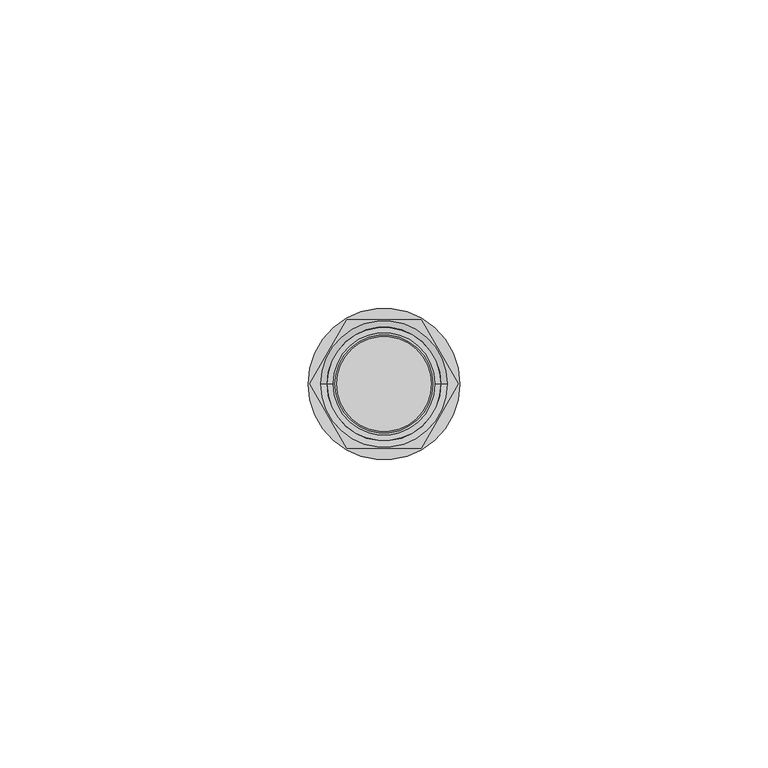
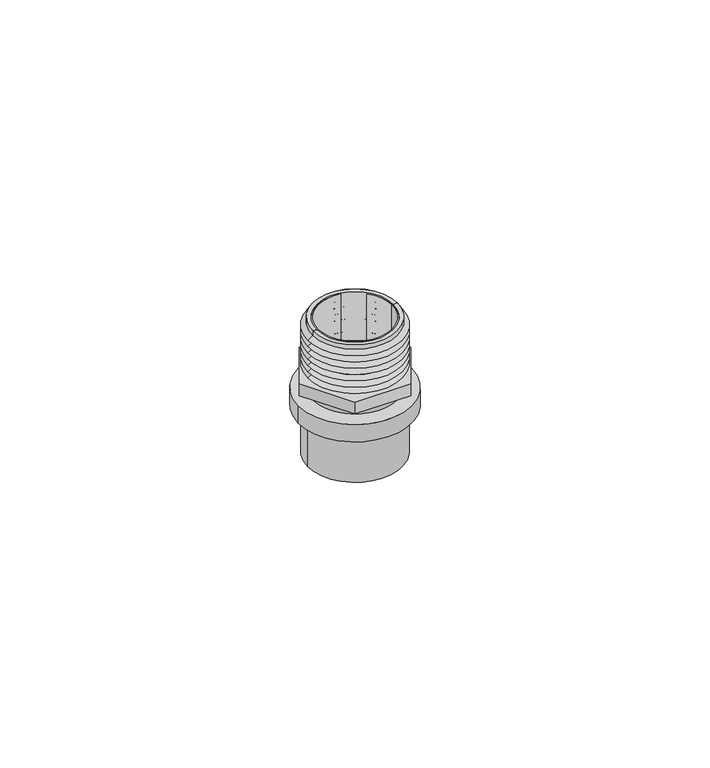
"""IFC4 building model written with IfcOpenShell, lengths in millimetres: valve geometry, Adaptador Macho con Ins Metalico_Lubrizol_CPVC_FlowGuard_MX 13mm : Adaptador Macho con Ins Metalico_Lubrizol_CPVC_FlowGuard_MX 13mm."""

import ifcopenshell
import ifcopenshell.guid

model = None  # the IFC model being written
_history = None  # IfcOwnerHistory: only IFC2X3 demands one
_inside = {}  # id of a spatial element -> (the spatial element, [elements in it])
_under = {}  # id of a project, library or spatial element -> (it, [spatial elements below it])
_declared = {}  # id of a project -> (the project, [libraries it declares])
_typed = {}  # id of a type object -> (the type object, [elements of that type])
_made_of = {}  # id of a material, layer set ... -> (it, [elements and type objects made of it])


def new_model(schema):
    """Start an empty IFC model of exactly this schema.

    Asked for "IFC4X3", IfcOpenShell would pick the latest addendum, in which some entities
    have other attributes; the version numbers below select the first issue.
    IFC2X3 requires an IfcOwnerHistory on every rooted entity: one is made here for all.
    """
    global model, _history
    if schema == "IFC4X3":
        model = ifcopenshell.file(schema_version=(4, 3, 0, 0))
    else:
        model = ifcopenshell.file(schema=schema)
    _inside.clear()
    _under.clear()
    _declared.clear()
    _typed.clear()
    _made_of.clear()
    _history = None
    if model.schema == "IFC2X3":
        org = make("IfcOrganization", Name="unknown")
        user = make(
            "IfcPersonAndOrganization",
            ThePerson=make("IfcPerson", FamilyName="unknown"),
            TheOrganization=org,
        )
        app = make(
            "IfcApplication",
            ApplicationDeveloper=org,
            Version="unknown",
            ApplicationFullName="unknown",
            ApplicationIdentifier="unknown",
        )
        _history = make(
            "IfcOwnerHistory",
            OwningUser=user,
            OwningApplication=app,
            ChangeAction="ADDED",
            CreationDate=0,
        )
    return model


def make(cls, **values):
    """One entity of the class cls with the attributes given. An attribute that is None is left unset."""
    return model.create_entity(
        cls, **{name: value for name, value in values.items() if value is not None}
    )


def rooted(cls, **values):
    """An entity with a GlobalId (a new one), such as an element, a storey or a relation."""
    return make(cls, GlobalId=ifcopenshell.guid.new(), OwnerHistory=_history, **values)


def si_unit(unit_type, name, prefix=None):
    """IfcSIUnit, for example si_unit("LENGTHUNIT", "METRE", prefix="MILLI")."""
    return make("IfcSIUnit", UnitType=unit_type, Prefix=prefix, Name=name)


def assignment(units):
    """IfcUnitAssignment: the units of a project."""
    return None if units is None else make("IfcUnitAssignment", Units=units)


def point(xyz):
    """IfcCartesianPoint."""
    return None if xyz is None else make("IfcCartesianPoint", Coordinates=xyz)


def direction(xyz):
    """IfcDirection."""
    return None if xyz is None else make("IfcDirection", DirectionRatios=xyz)


def frame(location, z_axis=None, x_axis=None):
    """IfcAxis2Placement3D, a coordinate frame: its origin and axes. An axis left out is left unset."""
    return make(
        "IfcAxis2Placement3D",
        Location=point(location),
        Axis=direction(z_axis),
        RefDirection=direction(x_axis),
    )


def frame_2d(location, x_axis=None):
    """IfcAxis2Placement2D, a coordinate frame in the plane: its origin and x axis."""
    return make(
        "IfcAxis2Placement2D", Location=point(location), RefDirection=direction(x_axis)
    )


def origin():
    """The frame at (0, 0, 0) with its axes left unset."""
    return frame((0.0, 0.0, 0.0))


def origin_with_axes():
    """The frame at (0, 0, 0) with the z axis (0, 0, 1) and the x axis (1, 0, 0) written out."""
    return frame((0.0, 0.0, 0.0), z_axis=(0.0, 0.0, 1.0), x_axis=(1.0, 0.0, 0.0))


def origin_2d():
    """The frame at (0, 0) in the plane with its x axis left unset."""
    return frame_2d((0.0, 0.0))


def place(relative_to, where):
    """IfcLocalPlacement: puts the frame where relative to a parent placement (None: the world)."""
    return make(
        "IfcLocalPlacement", PlacementRelTo=relative_to, RelativePlacement=where
    )


def context(
    kind, dimensions, precision=None, world=None, true_north=None, identifier=None
):
    """IfcGeometricRepresentationContext, for example the 3D "Model" context."""
    return make(
        "IfcGeometricRepresentationContext",
        ContextIdentifier=identifier,
        ContextType=kind,
        CoordinateSpaceDimension=dimensions,
        Precision=precision,
        WorldCoordinateSystem=world,
        TrueNorth=true_north,
    )


def project(units=None, contexts=None):
    """IfcProject with its units and contexts."""
    return rooted(
        "IfcProject",
        Name="project",
        RepresentationContexts=contexts,
        UnitsInContext=assignment(units),
    )


def spatial(cls, under=None, at=None, **own):
    """A site, building, storey or space (cls), placed at a placement, below another one or the project."""
    s = rooted(cls, ObjectPlacement=at, **own)
    if under is not None:
        _under.setdefault(under.id(), (under, []))[1].append(s)
    return s


def polyline(points):
    """IfcPolyline through the points."""
    return make("IfcPolyline", Points=[point(p) for p in points])


def circle_curve(where, radius):
    """IfcCircle in the frame where."""
    return make("IfcCircle", Position=where, Radius=radius)


def trimmed(basis, trim1, trim2, sense, master):
    """IfcTrimmedCurve: the piece of a basis curve between two trims."""
    return make(
        "IfcTrimmedCurve",
        BasisCurve=basis,
        Trim1=trim1,
        Trim2=trim2,
        SenseAgreement=sense,
        MasterRepresentation=master,
    )


def segment(curve, same_sense, transition):
    """IfcCompositeCurveSegment."""
    return make(
        "IfcCompositeCurveSegment",
        Transition=transition,
        SameSense=same_sense,
        ParentCurve=curve,
    )


def composite_curve(segments, self_intersect=None):
    """IfcCompositeCurve: segments joined end to end."""
    return make("IfcCompositeCurve", Segments=segments, SelfIntersect=self_intersect)


def outline(outer, holes=None, kind="AREA"):
    """IfcArbitraryClosedProfileDef: a profile drawn as a closed curve; with holes, ...WithVoids."""
    if holes is None:
        return make("IfcArbitraryClosedProfileDef", ProfileType=kind, OuterCurve=outer)
    return make(
        "IfcArbitraryProfileDefWithVoids",
        ProfileType=kind,
        OuterCurve=outer,
        InnerCurves=holes,
    )


def extrude(swept, where, along, depth):
    """IfcExtrudedAreaSolid: the profile swept, set in the frame where, extruded along a direction by depth."""
    return make(
        "IfcExtrudedAreaSolid",
        SweptArea=swept,
        Position=where,
        ExtrudedDirection=direction(along),
        Depth=depth,
    )


def shape(context_of_items, identifier, shape_type, items):
    """IfcShapeRepresentation: the items that make up one representation, for example the "Body"."""
    return make(
        "IfcShapeRepresentation",
        ContextOfItems=context_of_items,
        RepresentationIdentifier=identifier,
        RepresentationType=shape_type,
        Items=items,
    )


def source(mapping_origin, context_of_items, identifier, shape_type, items):
    """IfcRepresentationMap: a shape defined once, which mapped items show again and again."""
    return make(
        "IfcRepresentationMap",
        MappingOrigin=mapping_origin,
        MappedRepresentation=shape(context_of_items, identifier, shape_type, items),
    )


def transform(
    local_origin,
    x_axis=None,
    y_axis=None,
    z_axis=None,
    scale=None,
    scale2=None,
    scale3=None,
    uniform=True,
):
    """IfcCartesianTransformationOperator3D, or its non-uniform kind. x_axis, y_axis, z_axis: its Axis1, 2, 3."""
    if uniform:
        return make(
            "IfcCartesianTransformationOperator3D",
            Axis1=direction(x_axis),
            Axis2=direction(y_axis),
            LocalOrigin=point(local_origin),
            Scale=scale,
            Axis3=direction(z_axis),
        )
    return make(
        "IfcCartesianTransformationOperator3DnonUniform",
        Axis1=direction(x_axis),
        Axis2=direction(y_axis),
        LocalOrigin=point(local_origin),
        Scale=scale,
        Axis3=direction(z_axis),
        Scale2=scale2,
        Scale3=scale3,
    )


def mapped(mapping_source, mapping_target):
    """IfcMappedItem: shows the shape of a source again, moved by a transform."""
    return make(
        "IfcMappedItem", MappingSource=mapping_source, MappingTarget=mapping_target
    )


def made_of(thing, what):
    """Note that an element or type object is made of a material, layer set ...; save() writes the relation."""
    if what is not None:
        _made_of.setdefault(what.id(), (what, []))[1].append(thing)
    return thing


def element(
    cls,
    number,
    at=None,
    inside=None,
    cuts=None,
    type_object=None,
    material=None,
    context=None,
    identifier="Body",
    shape_type=None,
    held_by="IfcProductDefinitionShape",
    body=None,
    shapes=None,
    **own,
):
    """One element of the class cls, such as IfcWall. Its Tag is "e" and its number.

    at: its placement. inside: the storey or other place that contains it. cuts: it is an
    opening in that element (IfcRelVoidsElement). A single representation is given by context,
    identifier, shape_type and body (its items); several are given by shapes. held_by: the class
    of the entity that holds the representations. save() writes the other relations.
    """
    e = rooted(cls, Tag="e%d" % number, ObjectPlacement=at, **own)
    if body is not None:
        shapes = [shape(context, identifier, shape_type, body)]
    if shapes is not None:
        e.Representation = make(held_by, Representations=shapes)
    if inside is not None:
        _inside.setdefault(inside.id(), (inside, []))[1].append(e)
    if cuts is not None:
        rooted(
            "IfcRelVoidsElement", RelatingBuildingElement=cuts, RelatedOpeningElement=e
        )
    if type_object is not None:
        _typed.setdefault(type_object.id(), (type_object, []))[1].append(e)
    return made_of(e, material)


def aggregate(whole, parts):
    """IfcRelAggregates: a whole, such as a stair, and the parts it consists of."""
    return rooted("IfcRelAggregates", RelatingObject=whole, RelatedObjects=parts)


def save(model, path):
    """Write the relations noted so far, then the file.

    IfcRelAggregates (storeys below a building ...), IfcRelContainedInSpatialStructure (elements
    in a storey), IfcRelDefinesByType, IfcRelAssociatesMaterial and IfcRelDeclares: one each for
    every whole, place, type object, material and project.
    """
    for whole, parts in _under.values():
        aggregate(whole, parts)
    for where, things in _inside.values():
        rooted(
            "IfcRelContainedInSpatialStructure",
            RelatedElements=things,
            RelatingStructure=where,
        )
    for kind, things in _typed.values():
        rooted("IfcRelDefinesByType", RelatedObjects=things, RelatingType=kind)
    for what, things in _made_of.values():
        rooted("IfcRelAssociatesMaterial", RelatedObjects=things, RelatingMaterial=what)
    for by, libraries in _declared.values():
        rooted("IfcRelDeclares", RelatingContext=by, RelatedDefinitions=libraries)
    model.write(path)


def plane_surface(at):
    """IfcPlane: the flat surface through the origin of the frame at, square to its z axis."""
    return make("IfcPlane", Position=at)


def cylinder_surface(at, radius):
    """IfcCylindricalSurface: all points at the distance radius from the z axis of the frame at."""
    return make("IfcCylindricalSurface", Position=at, Radius=radius)


def revolved_surface(curve, axis_point, axis_direction):
    """IfcSurfaceOfRevolution: the curve turned about the line through axis_point along axis_direction."""
    return make(
        "IfcSurfaceOfRevolution",
        SweptCurve=make("IfcArbitraryOpenProfileDef", ProfileType="CURVE", Curve=curve),
        AxisPosition=make("IfcAxis1Placement", Location=point(axis_point), Axis=direction(axis_direction)),
    )


def advanced_brep(points, edges, surfaces, faces):
    """IfcAdvancedBrep: a solid bounded by faces that lie on surfaces and meet in shared edges.

    An edge is (start, end): straight between two places in points (the first is 0);
    or (start, end, curve); or (start, end, curve, False) where it runs against its curve.
    A face is (place in surfaces, loops), or (place, loops, False) where it looks against
    its surface's normal. A loop lists edges by number (the first is 1), with a minus sign
    where the edge is run from its end to its start. The first loop is the outer one.
    """
    corners = [point(p) for p in points]
    vertices = [make("IfcVertexPoint", VertexGeometry=c) for c in corners]
    made = []
    for start, end, *more in edges:
        made.append(
            make(
                "IfcEdgeCurve",
                EdgeStart=vertices[start],
                EdgeEnd=vertices[end],
                EdgeGeometry=more[0] if more else make("IfcPolyline", Points=[corners[start], corners[end]]),
                SameSense=more[1] if len(more) > 1 else True,
            )
        )
    hull = []
    for where, loops, *sense in faces:
        bounds = []
        for j, loop in enumerate(loops):
            ring = [make("IfcOrientedEdge", EdgeElement=made[abs(k) - 1], Orientation=k > 0) for k in loop]
            bounds.append(
                make(
                    "IfcFaceOuterBound" if j == 0 else "IfcFaceBound",
                    Bound=make("IfcEdgeLoop", EdgeList=ring),
                    Orientation=True,
                )
            )
        hull.append(make("IfcAdvancedFace", Bounds=bounds, FaceSurface=surfaces[where], SameSense=sense[0] if sense else True))
    return make("IfcAdvancedBrep", Outer=make("IfcClosedShell", CfsFaces=hull))


def valve_5111bdb8(model_context):
    return source(origin(), model_context, "Body", "SolidModel", [
        extrude(outline(composite_curve([segment(trimmed(circle_curve(origin_2d(), 12.2838575), [point((-12.2838575, 0.0))], [point((12.2838575, 0.0))], False, "CARTESIAN"), True, "CONTINUOUS"), segment(trimmed(circle_curve(origin_2d(), 12.2838575), [point((12.2838575, 0.0))], [point((-12.2838575, 0.0))], False, "CARTESIAN"), True, "CONTINUOUS")], self_intersect=False)), frame((0.0, 0.0, 10.708625), z_axis=(0.0, 0.0, 1.0), x_axis=(1.0, 0.0, 0.0)), (0.0, 0.0, 1.0), 3.9715605),
        advanced_brep(
        [(9.1862873, 0.0, 29.8089284), (-9.1862873, 0.0, 29.8089284), (-9.1862873, 0.0, 30.8), (9.1862873, 0.0, 30.8), (10.25, 0.0, 29.0641088), (-10.25, 0.0, 29.0641088), (9.2157757, 0.0, 28.3399371), (-9.2157757, 0.0, 28.3399371), (10.25, 0.0, 27.6157655), (-10.25, 0.0, 27.6157655), (9.2157757, 0.0, 26.8915939), (-9.2157757, 0.0, 26.8915939), (10.25, 0.0, 26.1674223), (-10.25, 0.0, 26.1674223), (9.2157757, 0.0, 25.4432506), (-9.2157757, 0.0, 25.4432506), (10.25, 0.0, 24.719079), (-10.25, 0.0, 24.719079), (9.2157757, 0.0, 23.9949074), (-9.2157757, 0.0, 23.9949074), (10.25, 0.0, 23.2707358), (-10.25, 0.0, 23.2707358), (9.2157757, 0.0, 22.5465641), (-9.2157757, 0.0, 22.5465641), (10.25, 0.0, 21.8223925), (-10.25, 0.0, 21.8223925), (9.2157757, 0.0, 21.0982209), (-9.2157757, 0.0, 21.0982209), (10.25, 0.0, 20.3740493), (-10.25, 0.0, 20.3740493), (9.2157757, 0.0, 19.6498777), (-9.2157757, 0.0, 19.6498777), (8.3354831, 0.0, 19.6498777), (-8.3354831, 0.0, 19.6498777), (-8.3354831, 0.0, 30.8), (8.3354831, 0.0, 30.8)],
        [
            (0, 1, circle_curve(frame((0.0, 0.0, 29.8089284), z_axis=(0.0, 0.0, 1.0), x_axis=(-1.0, 0.0, 0.0)), 9.1862873)),
            (1, 2),
            (2, 3, circle_curve(frame((0.0, 0.0, 30.8), z_axis=(0.0, 0.0, -1.0), x_axis=(-1.0, 0.0, 0.0)), 9.1862873)),
            (3, 0),
            (1, 0, circle_curve(frame((0.0, 0.0, 29.8089284), z_axis=(0.0, 0.0, 1.0), x_axis=(-1.0, 0.0, 0.0)), 9.1862873)),
            (3, 2, circle_curve(frame((0.0, 0.0, 30.8), z_axis=(0.0, 0.0, -1.0), x_axis=(-1.0, 0.0, 0.0)), 9.1862873)),
            (4, 5, circle_curve(frame((0.0, 0.0, 29.0641088), z_axis=(0.0, 0.0, 1.0), x_axis=(-1.0, 0.0, 0.0)), 10.25)),
            (5, 1),
            (0, 4),
            (5, 4, circle_curve(frame((0.0, 0.0, 29.0641088), z_axis=(0.0, 0.0, 1.0), x_axis=(-1.0, 0.0, 0.0)), 10.25)),
            (6, 7, circle_curve(frame((0.0, 0.0, 28.3399371), z_axis=(0.0, 0.0, 1.0), x_axis=(-1.0, 0.0, 0.0)), 9.2157757)),
            (7, 5),
            (4, 6),
            (7, 6, circle_curve(frame((0.0, 0.0, 28.3399371), z_axis=(0.0, 0.0, 1.0), x_axis=(-1.0, 0.0, 0.0)), 9.2157757)),
            (8, 9, circle_curve(frame((0.0, 0.0, 27.6157655), z_axis=(0.0, 0.0, 1.0), x_axis=(-1.0, 0.0, 0.0)), 10.25)),
            (9, 7),
            (6, 8),
            (9, 8, circle_curve(frame((0.0, 0.0, 27.6157655), z_axis=(0.0, 0.0, 1.0), x_axis=(-1.0, 0.0, 0.0)), 10.25)),
            (10, 11, circle_curve(frame((0.0, 0.0, 26.8915939), z_axis=(0.0, 0.0, 1.0), x_axis=(-1.0, 0.0, 0.0)), 9.2157757)),
            (11, 9),
            (8, 10),
            (11, 10, circle_curve(frame((0.0, 0.0, 26.8915939), z_axis=(0.0, 0.0, 1.0), x_axis=(-1.0, 0.0, 0.0)), 9.2157757)),
            (12, 13, circle_curve(frame((0.0, 0.0, 26.1674223), z_axis=(0.0, 0.0, 1.0), x_axis=(-1.0, 0.0, 0.0)), 10.25)),
            (13, 11),
            (10, 12),
            (13, 12, circle_curve(frame((0.0, 0.0, 26.1674223), z_axis=(0.0, 0.0, 1.0), x_axis=(-1.0, 0.0, 0.0)), 10.25)),
            (14, 15, circle_curve(frame((0.0, 0.0, 25.4432506), z_axis=(0.0, 0.0, 1.0), x_axis=(-1.0, 0.0, 0.0)), 9.2157757)),
            (15, 13),
            (12, 14),
            (15, 14, circle_curve(frame((0.0, 0.0, 25.4432506), z_axis=(0.0, 0.0, 1.0), x_axis=(-1.0, 0.0, 0.0)), 9.2157757)),
            (16, 17, circle_curve(frame((0.0, 0.0, 24.719079), z_axis=(0.0, 0.0, 1.0), x_axis=(-1.0, 0.0, 0.0)), 10.25)),
            (17, 15),
            (14, 16),
            (17, 16, circle_curve(frame((0.0, 0.0, 24.719079), z_axis=(0.0, 0.0, 1.0), x_axis=(-1.0, 0.0, 0.0)), 10.25)),
            (18, 19, circle_curve(frame((0.0, 0.0, 23.9949074), z_axis=(0.0, 0.0, 1.0), x_axis=(-1.0, 0.0, 0.0)), 9.2157757)),
            (19, 17),
            (16, 18),
            (19, 18, circle_curve(frame((0.0, 0.0, 23.9949074), z_axis=(0.0, 0.0, 1.0), x_axis=(-1.0, 0.0, 0.0)), 9.2157757)),
            (20, 21, circle_curve(frame((0.0, 0.0, 23.2707358), z_axis=(0.0, 0.0, 1.0), x_axis=(-1.0, 0.0, 0.0)), 10.25)),
            (21, 19),
            (18, 20),
            (21, 20, circle_curve(frame((0.0, 0.0, 23.2707358), z_axis=(0.0, 0.0, 1.0), x_axis=(-1.0, 0.0, 0.0)), 10.25)),
            (22, 23, circle_curve(frame((0.0, 0.0, 22.5465641), z_axis=(0.0, 0.0, 1.0), x_axis=(-1.0, 0.0, 0.0)), 9.2157757)),
            (23, 21),
            (20, 22),
            (23, 22, circle_curve(frame((0.0, 0.0, 22.5465641), z_axis=(0.0, 0.0, 1.0), x_axis=(-1.0, 0.0, 0.0)), 9.2157757)),
            (24, 25, circle_curve(frame((0.0, 0.0, 21.8223925), z_axis=(0.0, 0.0, 1.0), x_axis=(-1.0, 0.0, 0.0)), 10.25)),
            (25, 23),
            (22, 24),
            (25, 24, circle_curve(frame((0.0, 0.0, 21.8223925), z_axis=(0.0, 0.0, 1.0), x_axis=(-1.0, 0.0, 0.0)), 10.25)),
            (26, 27, circle_curve(frame((0.0, 0.0, 21.0982209), z_axis=(0.0, 0.0, 1.0), x_axis=(-1.0, 0.0, 0.0)), 9.2157757)),
            (27, 25),
            (24, 26),
            (27, 26, circle_curve(frame((0.0, 0.0, 21.0982209), z_axis=(0.0, 0.0, 1.0), x_axis=(-1.0, 0.0, 0.0)), 9.2157757)),
            (28, 29, circle_curve(frame((0.0, 0.0, 20.3740493), z_axis=(0.0, 0.0, 1.0), x_axis=(-1.0, 0.0, 0.0)), 10.25)),
            (29, 27),
            (26, 28),
            (29, 28, circle_curve(frame((0.0, 0.0, 20.3740493), z_axis=(0.0, 0.0, 1.0), x_axis=(-1.0, 0.0, 0.0)), 10.25)),
            (30, 31, circle_curve(frame((0.0, 0.0, 19.6498777), z_axis=(0.0, 0.0, 1.0), x_axis=(-1.0, 0.0, 0.0)), 9.2157757)),
            (31, 29),
            (28, 30),
            (31, 30, circle_curve(frame((0.0, 0.0, 19.6498777), z_axis=(0.0, 0.0, 1.0), x_axis=(-1.0, 0.0, 0.0)), 9.2157757)),
            (32, 33, circle_curve(frame((0.0, 0.0, 19.6498777), z_axis=(0.0, 0.0, 1.0), x_axis=(-1.0, 0.0, 0.0)), 8.3354831)),
            (33, 31),
            (30, 32),
            (33, 32, circle_curve(frame((0.0, 0.0, 19.6498777), z_axis=(0.0, 0.0, 1.0), x_axis=(-1.0, 0.0, 0.0)), 8.3354831)),
            (2, 34),
            (34, 35, circle_curve(frame((0.0, 0.0, 30.8), z_axis=(0.0, 0.0, -1.0), x_axis=(-1.0, 0.0, 0.0)), 8.3354831)),
            (35, 3),
            (35, 34, circle_curve(frame((0.0, 0.0, 30.8), z_axis=(0.0, 0.0, -1.0), x_axis=(-1.0, 0.0, 0.0)), 8.3354831)),
            (34, 33),
            (32, 35),
        ],
        [
            cylinder_surface(frame((0.0, 0.0, 32.7589883), z_axis=(0.0, 0.0, -1.0), x_axis=(-1.0, 0.0, 0.0)), 9.1862873),
            revolved_surface(polyline([(-9.1862873, 0.0, 29.8089284), (-10.25, 0.0, 29.0641088)]), (0.0, 0.0, 32.7589883), (0.0, 0.0, -1.0)),
            revolved_surface(polyline([(-10.25, 0.0, 29.0641088), (-9.2157757, 0.0, 28.3399371)]), (0.0, 0.0, 32.7589883), (0.0, 0.0, -1.0)),
            revolved_surface(polyline([(-9.2157757, 0.0, 28.3399371), (-10.25, 0.0, 27.6157655)]), (0.0, 0.0, 32.7589883), (0.0, 0.0, -1.0)),
            revolved_surface(polyline([(-10.25, 0.0, 27.6157655), (-9.2157757, 0.0, 26.8915939)]), (0.0, 0.0, 32.7589883), (0.0, 0.0, -1.0)),
            revolved_surface(polyline([(-9.2157757, 0.0, 26.8915939), (-10.25, 0.0, 26.1674223)]), (0.0, 0.0, 32.7589883), (0.0, 0.0, -1.0)),
            revolved_surface(polyline([(-10.25, 0.0, 26.1674223), (-9.2157757, 0.0, 25.4432506)]), (0.0, 0.0, 32.7589883), (0.0, 0.0, -1.0)),
            revolved_surface(polyline([(-9.2157757, 0.0, 25.4432506), (-10.25, 0.0, 24.719079)]), (0.0, 0.0, 32.7589883), (0.0, 0.0, -1.0)),
            revolved_surface(polyline([(-10.25, 0.0, 24.719079), (-9.2157757, 0.0, 23.9949074)]), (0.0, 0.0, 32.7589883), (0.0, 0.0, -1.0)),
            revolved_surface(polyline([(-9.2157757, 0.0, 23.9949074), (-10.25, 0.0, 23.2707358)]), (0.0, 0.0, 32.7589883), (0.0, 0.0, -1.0)),
            revolved_surface(polyline([(-10.25, 0.0, 23.2707358), (-9.2157757, 0.0, 22.5465641)]), (0.0, 0.0, 32.7589883), (0.0, 0.0, -1.0)),
            revolved_surface(polyline([(-9.2157757, 0.0, 22.5465641), (-10.25, 0.0, 21.8223925)]), (0.0, 0.0, 32.7589883), (0.0, 0.0, -1.0)),
            revolved_surface(polyline([(-10.25, 0.0, 21.8223925), (-9.2157757, 0.0, 21.0982209)]), (0.0, 0.0, 32.7589883), (0.0, 0.0, -1.0)),
            revolved_surface(polyline([(-9.2157757, 0.0, 21.0982209), (-10.25, 0.0, 20.3740493)]), (0.0, 0.0, 32.7589883), (0.0, 0.0, -1.0)),
            revolved_surface(polyline([(-10.25, 0.0, 20.3740493), (-9.2157757, 0.0, 19.6498777)]), (0.0, 0.0, 32.7589883), (0.0, 0.0, -1.0)),
            plane_surface(frame((0.0, 0.0, 19.6498777), z_axis=(0.0, 0.0, -1.0), x_axis=(-1.0, 0.0, 0.0))),
            plane_surface(frame((0.0, 0.0, 30.8), z_axis=(0.0, 0.0, 1.0), x_axis=(-1.0, 0.0, 0.0))),
            revolved_surface(polyline([(-8.3354831, 0.0, 19.6498777), (-8.3354831, 0.0, 30.8)]), (0.0, 0.0, 32.7589883), (0.0, 0.0, -1.0)),
        ],
        [
            (0, [[1, 2, 3, 4]]),
            (0, [[5, -4, 6, -2]]),
            (1, [[7, 8, -1, 9]]),
            (1, [[10, -9, -5, -8]]),
            (2, [[11, 12, -7, 13]]),
            (2, [[14, -13, -10, -12]]),
            (3, [[15, 16, -11, 17]]),
            (3, [[18, -17, -14, -16]]),
            (4, [[19, 20, -15, 21]]),
            (4, [[22, -21, -18, -20]]),
            (5, [[23, 24, -19, 25]]),
            (5, [[26, -25, -22, -24]]),
            (6, [[27, 28, -23, 29]]),
            (6, [[30, -29, -26, -28]]),
            (7, [[31, 32, -27, 33]]),
            (7, [[34, -33, -30, -32]]),
            (8, [[35, 36, -31, 37]]),
            (8, [[38, -37, -34, -36]]),
            (9, [[39, 40, -35, 41]]),
            (9, [[42, -41, -38, -40]]),
            (10, [[43, 44, -39, 45]]),
            (10, [[46, -45, -42, -44]]),
            (11, [[47, 48, -43, 49]]),
            (11, [[50, -49, -46, -48]]),
            (12, [[51, 52, -47, 53]]),
            (12, [[54, -53, -50, -52]]),
            (13, [[55, 56, -51, 57]]),
            (13, [[58, -57, -54, -56]]),
            (14, [[59, 60, -55, 61]]),
            (14, [[62, -61, -58, -60]]),
            (15, [[63, 64, -59, 65]]),
            (15, [[66, -65, -62, -64]]),
            (16, [[-3, 67, 68, 69]]),
            (16, [[-6, -69, 70, -67]]),
            (17, [[-68, 71, -63, 72]]),
            (17, [[-70, -72, -66, -71]]),
        ],
    ),
        extrude(outline(composite_curve([segment(trimmed(circle_curve(origin_2d(), 10.25), [point((-10.25, 0.0))], [point((10.25, 0.0))], False, "CARTESIAN"), True, "CONTINUOUS"), segment(trimmed(circle_curve(origin_2d(), 10.25), [point((10.25, 0.0))], [point((-10.25, 0.0))], False, "CARTESIAN"), True, "CONTINUOUS")], self_intersect=False), holes=[composite_curve([segment(trimmed(circle_curve(origin_2d(), 7.95), [point((-7.95, 0.0))], [point((7.95, 0.0))], True, "CARTESIAN"), True, "CONTINUOUS"), segment(trimmed(circle_curve(origin_2d(), 7.95), [point((7.95, 0.0))], [point((-7.95, 0.0))], True, "CARTESIAN"), True, "CONTINUOUS")], self_intersect=False)]), origin_with_axes(), (0.0, 0.0, 1.0), 10.708625),
        extrude(outline(polyline([(6.0370299, 10.4564425), (12.0740598, 0.0), (6.0370299, -10.4564425), (-6.0370299, -10.4564425), (-12.0740598, 0.0), (-6.0370299, 10.4564425), (6.0370299, 10.4564425)]), holes=[composite_curve([segment(trimmed(circle_curve(origin_2d(), 7.695932), [point((-7.695932, 0.0))], [point((7.695932, 0.0))], True, "CARTESIAN"), True, "CONTINUOUS"), segment(trimmed(circle_curve(origin_2d(), 7.695932), [point((7.695932, 0.0))], [point((-7.695932, 0.0))], True, "CARTESIAN"), True, "CONTINUOUS")], self_intersect=False)]), frame((0.0, 0.0, 16.9699457), z_axis=(0.0, 0.0, 1.0), x_axis=(1.0, 0.0, 0.0)), (0.0, 0.0, 1.0), 2.679932),
        extrude(outline(composite_curve([segment(trimmed(circle_curve(origin_2d(), 9.2157757), [point((-9.2157757, 0.0))], [point((9.2157757, 0.0))], False, "CARTESIAN"), True, "CONTINUOUS"), segment(trimmed(circle_curve(origin_2d(), 9.2157757), [point((9.2157757, 0.0))], [point((-9.2157757, 0.0))], False, "CARTESIAN"), True, "CONTINUOUS")], self_intersect=False), holes=[composite_curve([segment(trimmed(circle_curve(origin_2d(), 7.95), [point((-7.95, 0.0))], [point((7.95, 0.0))], True, "CARTESIAN"), True, "CONTINUOUS"), segment(trimmed(circle_curve(origin_2d(), 7.95), [point((7.95, 0.0))], [point((-7.95, 0.0))], True, "CARTESIAN"), True, "CONTINUOUS")], self_intersect=False)]), frame((0.0, 0.0, 14.6801856), z_axis=(0.0, 0.0, 1.0), x_axis=(1.0, 0.0, 0.0)), (0.0, 0.0, 1.0), 16.1198144),
    ])


if __name__ == "__main__":
    model = new_model("IFC4")
    model_context = context("Model", 3, world=origin())
    ifc_project = project(units=[si_unit("LENGTHUNIT", "METRE", prefix="MILLI")], contexts=[model_context])
    site = spatial("IfcSite", under=ifc_project)
    building = spatial("IfcBuilding", under=site)
    placement = place(None, origin())
    valve_shape = valve_5111bdb8(model_context)
    element("IfcValve", 1, ObjectType="Adaptador Macho con Ins Metalico_Lubrizol_CPVC_FlowGuard_MX 13mm : Adaptador Macho con Ins Metalico_Lubrizol_CPVC_FlowGuard_MX 13mm", at=placement, inside=building, context=model_context, shape_type="MappedRepresentation", body=[
        mapped(valve_shape, transform((0.0, 0.0, 0.0), x_axis=(1.0, 0.0, 0.0), y_axis=(0.0, 1.0, 0.0), z_axis=(0.0, 0.0, 1.0))),
    ])
    save(model, "model.ifc")
